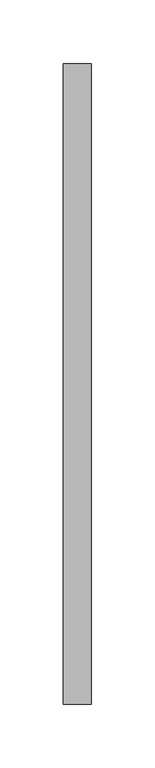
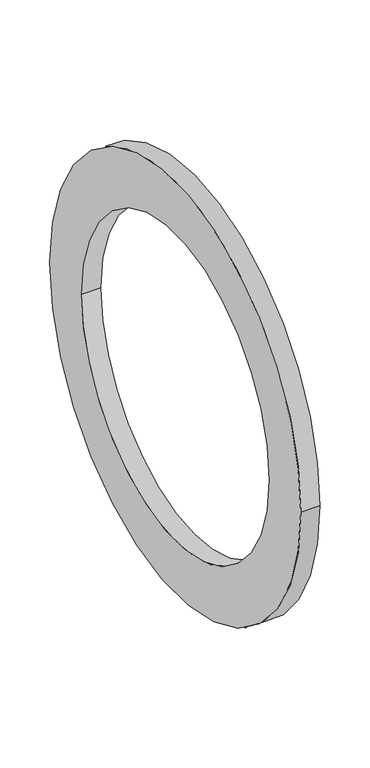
"""IFC4 building model written with IfcOpenShell, lengths in millimetres: pipe fitting geometry, NIRON accesorio brida : Estándar."""

from ifc_helpers import new_model, si_unit, point, frame, origin, origin_2d, place, context, project, spatial, circle_curve, trimmed, segment, composite_curve, outline, extrude, source, transform, mapped, element, save


def pipe_fitting_e469ae7e(model_context):
    return source(origin(), model_context, "Body", "SweptSolid", [
        extrude(outline(composite_curve([segment(trimmed(circle_curve(origin_2d(), 252.5), [point((252.5, 0.0))], [point((-252.5, 0.0))], False, "CARTESIAN"), True, "CONTINUOUS"), segment(trimmed(circle_curve(origin_2d(), 252.5), [point((-252.5, 0.0))], [point((252.5, 0.0))], False, "CARTESIAN"), True, "CONTINUOUS")], self_intersect=False), holes=[composite_curve([segment(trimmed(circle_curve(origin_2d(), 188.0), [point((188.0, 0.0))], [point((-188.0, 0.0))], True, "CARTESIAN"), True, "CONTINUOUS"), segment(trimmed(circle_curve(origin_2d(), 188.0), [point((-188.0, 0.0))], [point((188.0, 0.0))], True, "CARTESIAN"), True, "CONTINUOUS")], self_intersect=False)]), frame((2.4830127, 0.0, 0.0), z_axis=(1.0, 0.0, 0.0), x_axis=(0.0, 1.0, 0.0)), (0.0, 0.0, 1.0), 22.0),
    ])


if __name__ == "__main__":
    model = new_model("IFC4")
    model_context = context("Model", 3, world=origin())
    ifc_project = project(units=[si_unit("LENGTHUNIT", "METRE", prefix="MILLI")], contexts=[model_context])
    site = spatial("IfcSite", under=ifc_project)
    building = spatial("IfcBuilding", under=site)
    placement = place(None, origin())
    pipe_fitting_shape = pipe_fitting_e469ae7e(model_context)
    element("IfcPipeFitting", 1, ObjectType="NIRON accesorio brida : Estándar", at=placement, inside=building, context=model_context, shape_type="MappedRepresentation", body=[
        mapped(pipe_fitting_shape, transform((0.0, 0.0, 0.0), x_axis=(1.0, 0.0, 0.0), y_axis=(0.0, 1.0, 0.0), z_axis=(0.0, 0.0, 1.0))),
    ])
    save(model, "model.ifc")
